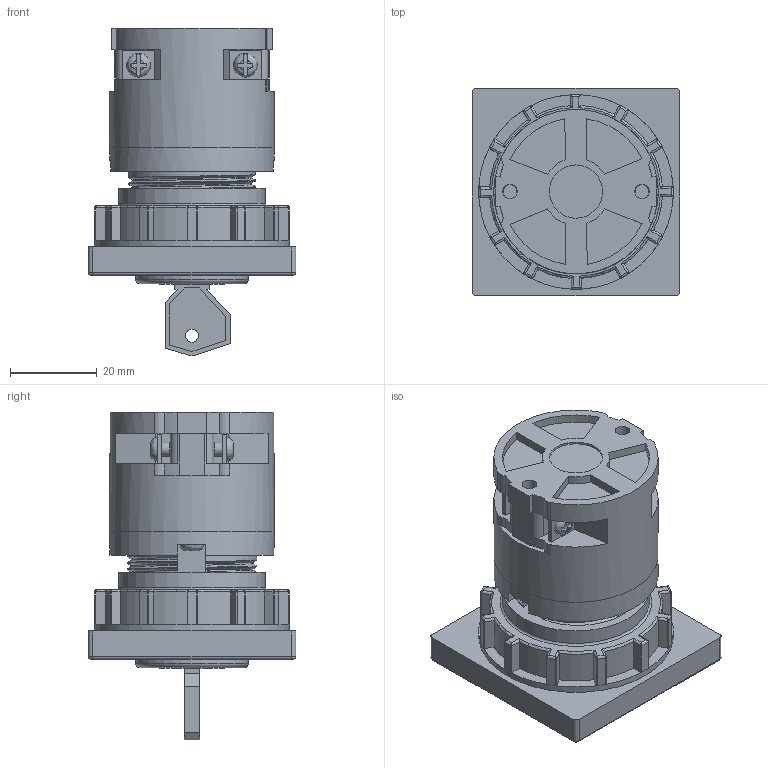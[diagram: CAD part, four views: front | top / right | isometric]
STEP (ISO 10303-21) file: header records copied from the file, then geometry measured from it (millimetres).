
FILE_DESCRIPTION(/* description */ (''),/* implementation_level */ '2;1');
FILE_NAME(/* name */ '4G10-U_wykonanie_S30_1_korpus.stp',/* time_stamp */ '2021-07-21T08:44:30+02:00',/* author */ (''),/* organization */ (''),/* preprocessor_version */ 'ST-DEVELOPER v18.1',/* originating_system */ 'SIEMENS PLM Software NX 1965',/* authorisation */ '');
FILE_SCHEMA (('AUTOMOTIVE_DESIGN { 1 0 10303 214 3 1 1 1 }'));
Length unit declared in the file: millimetre
Products named in the file (1): 4G10-U_wykonanie_S30_1_korpus_stp
Bounding box: 48 x 48 x 75.82 mm (x, y, z)
Volume: 69589.1 mm3; surface area: 16728.3 mm2
Topology: 1 solids, 1 shells, 489 faces, 1260 edges, 778 vertices
Faces by surface type: plane 289, cylinder 141, bspline 43, torus 16
Full cylindrical faces by diameter (mm): 3 x1, 3.2 x6, 3.3 x2, 3.4 x2, 12.3 x1, 15 x1, 26 x1, 34 x1, 38 x2, 45 x1
Entity records: 20204 total; most frequent: CARTESIAN_POINT 8802, ORIENTED_EDGE 2400, DIRECTION 2290, EDGE_CURVE 1200, AXIS2_PLACEMENT_3D 804, VERTEX_POINT 768, LINE 682, VECTOR 682
